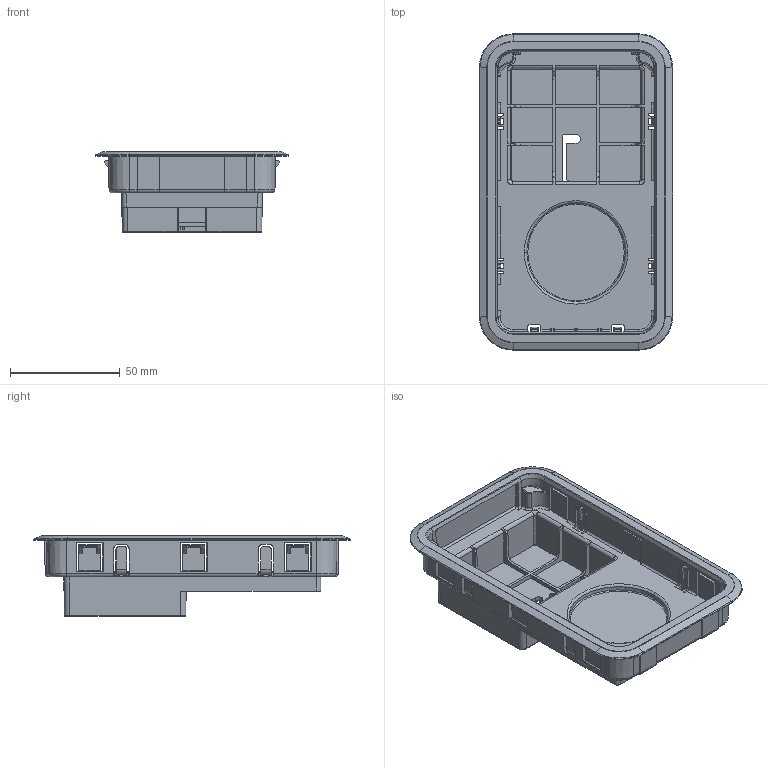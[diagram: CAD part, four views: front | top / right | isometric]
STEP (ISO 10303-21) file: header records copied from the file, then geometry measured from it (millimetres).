
FILE_DESCRIPTION((''),'2;1');
FILE_NAME('S300_FR10_OPERATOR_BRACKET-VER3','2024-03-14T17:23:28',('A003218518'),(''),'CREO PARAMETRIC BY PTC INC, 2020354','CREO PARAMETRIC BY PTC INC, 2020354','');
FILE_SCHEMA(('CONFIG_CONTROL_DESIGN'));
Length unit declared in the file: millimetre
Products named in the file (1): S300_FR10_OPERATOR_BRACKET-VER3
Bounding box: 88.3 x 144.4 x 36.7 mm (x, y, z)
Volume: 51706.7 mm3; surface area: 52266.1 mm2
Topology: 1 solids, 1 shells, 713 faces, 1973 edges, 1248 vertices
Faces by surface type: plane 347, cylinder 245, torus 52, bspline 46, cone 20, sphere 3
Entity records: 25332 total; most frequent: CARTESIAN_POINT 7884, ORIENTED_EDGE 3942, DIRECTION 3189, EDGE_CURVE 1971, VECTOR 1271, LINE 1271, VERTEX_POINT 1247, AXIS2_PLACEMENT_3D 959
